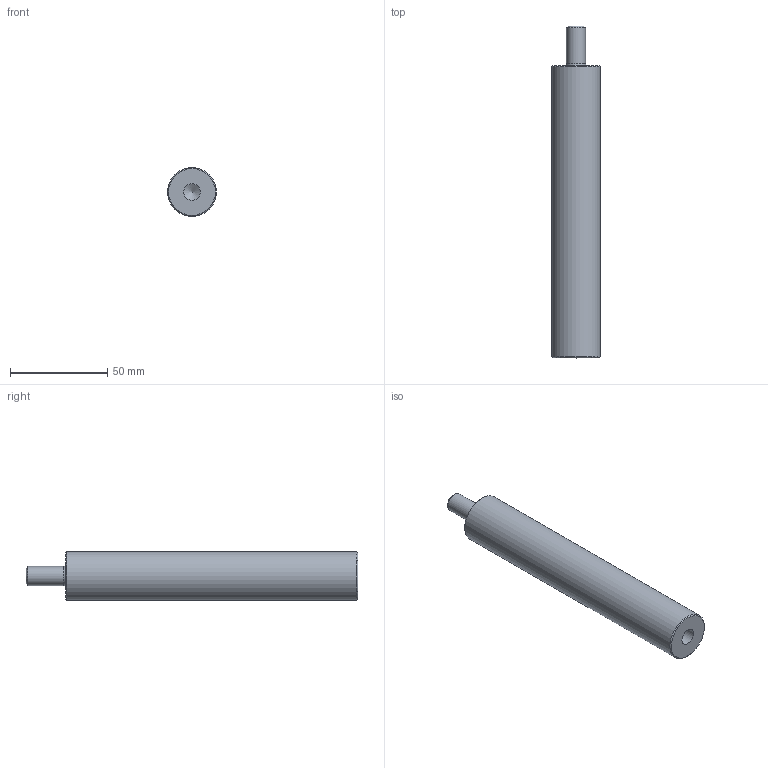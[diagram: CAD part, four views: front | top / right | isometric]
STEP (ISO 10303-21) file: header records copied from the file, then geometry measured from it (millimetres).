
FILE_DESCRIPTION(/* description */ (''),/* implementation_level */ '2;1');
FILE_NAME(/* name */ 'BM12-25D-150L.step',/* time_stamp */ '2023-10-24T14:08:15+09:00',/* author */ (''),/* organization */ (''),/* preprocessor_version */ 'ST-DEVELOPER v20',/* originating_system */ 'Autodesk Translation Framework v12.14.0.127',/* authorisation */ '');
FILE_SCHEMA (('AUTOMOTIVE_DESIGN { 1 0 10303 214 3 1 1 }'));
Length unit declared in the file: millimetre
Products named in the file (1): BM12-25D-150L
Bounding box: 25 x 170.5 x 25 mm (x, y, z)
Volume: 74261.2 mm3; surface area: 13729.5 mm2
Topology: 1 solids, 1 shells, 11 faces, 20 edges, 12 vertices
Faces by surface type: cone 4, cylinder 3, plane 3, torus 1
Full cylindrical faces by diameter (mm): 8.526 x1, 9.85 x1, 25 x1
Entity records: 309 total; most frequent: DIRECTION 55, CARTESIAN_POINT 43, ORIENTED_EDGE 38, AXIS2_PLACEMENT_3D 24, EDGE_CURVE 19, EDGE_LOOP 13, CIRCLE 12, VERTEX_POINT 12
